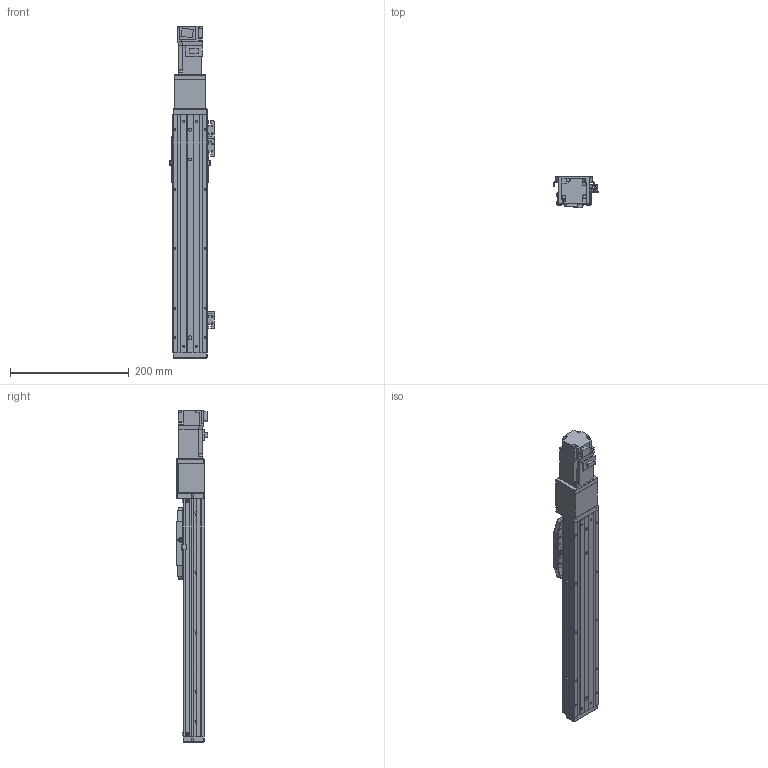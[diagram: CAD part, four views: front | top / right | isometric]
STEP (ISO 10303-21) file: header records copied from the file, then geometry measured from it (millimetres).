
FILE_DESCRIPTION (( 'STEP AP203' ), '1' );
FILE_NAME ('CTHA50-250-BC-M10-C4L.STEP', '2022-09-28T08:33:35', ( '微软用户' ), ( '微软中国' ), 'SwSTEP 2.0', 'SolidWorks 2020', '' );
FILE_SCHEMA (( 'CONFIG_CONTROL_DESIGN' ));
Length unit declared in the file: millimetre
Products named in the file (20): CTHA60-017; HG-KR13（三菱）; KTHA50-004; GBT 70.1-M4×12; GBT 70.3-M3℅6; KTHA50-005; CTHA60-016; CTHA50-002; GB¨uT 70.2-M3¡Á6_M3¡Á6; CTHA60-021; CTHA50-030; EE_SX911P_R; CTHA50-027; CTHA50-031; GBT77-2000 M3×3; CTHA50-006-2_CTHA60-006-2; CTHA50-250-BC-M10-C4L; GBT 70.1-M3℅6; CTHA50-013; KTHA50-001_400
Assembly tree (59 placements, depth 2):
  CTHA50-250-BC-M10-C4L
    KTHA50-001_400
    KTHA50-004
    KTHA50-005
    GB¨uT 70.2-M3¡Á6_M3¡Á6  x10
    EE_SX911P_R  x3
    GBT77-2000 M3×3  x6
    GBT 70.1-M3℅6  x6
    CTHA60-017  x3
    GBT 70.1-M4×12  x10
    CTHA60-016  x2
    CTHA60-021  x2
    CTHA50-027
    CTHA50-006-2_CTHA60-006-2
    CTHA50-013
    HG-KR13（三菱）
    GBT 70.3-M3℅6  x6
    CTHA50-002
    CTHA50-030  x2
    CTHA50-031
Bounding box: 74.12 x 53.3 x 558.6 mm (x, y, z)
Volume: 942985.7 mm3; surface area: 262239.8 mm2
Topology: 61 solids, 61 shells, 2396 faces, 5682 edges, 3474 vertices
Faces by surface type: plane 1378, cylinder 538, cone 360, torus 96, sphere 24
Entity records: 38698 total; most frequent: CARTESIAN_POINT 6227, DIRECTION 6190, ORIENTED_EDGE 5932, EDGE_CURVE 2966, VECTOR 2162, LINE 2162, AXIS2_PLACEMENT_3D 2014, VERTEX_POINT 1867
